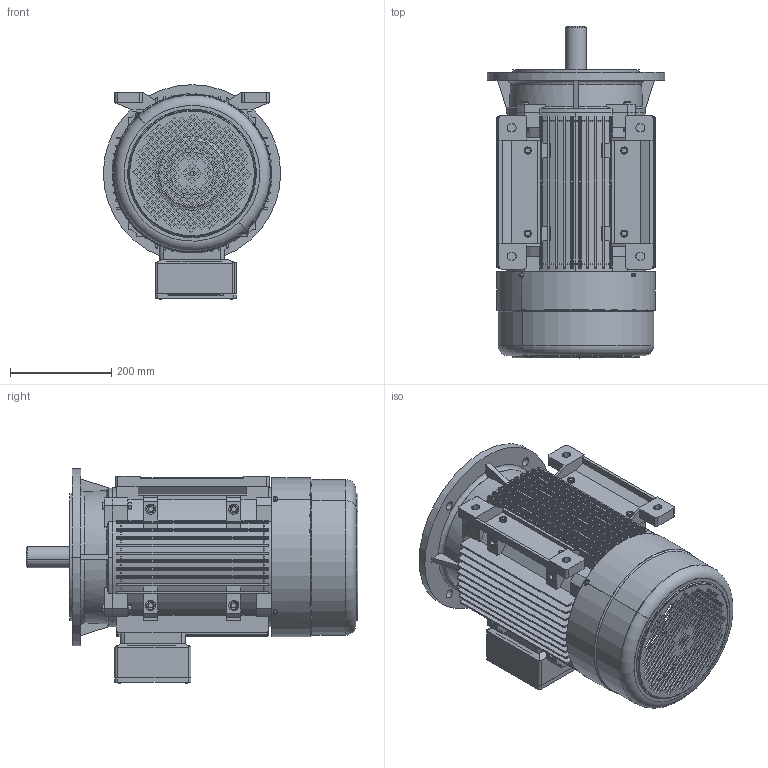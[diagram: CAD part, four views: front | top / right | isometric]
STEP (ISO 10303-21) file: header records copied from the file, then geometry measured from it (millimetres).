
FILE_DESCRIPTION (( 'STEP AP203' ), '1' );
FILE_NAME ('160L-B35.STEP', '2023-02-21T10:19:22', ( '' ), ( '' ), 'SwSTEP 2.0', 'SolidWorks 2018', '' );
FILE_SCHEMA (( 'CONFIG_CONTROL_DESIGN' ));
Length unit declared in the file: millimetre
Products named in the file (12): 160菁褐L; 160L-B35; 160 蚐猾; 160 蹟譫; 160諉盄碟釱; 160B5裔; 160粣芛; 160 蹟邡; 160諉盄碟裔; 112-蹟隊; 160L; 160瑞欶
Assembly tree (27 placements, depth 2):
  160L-B35
    160L
    160B5裔
    160 蹟邡  x8
    160 蹟譫  x4
    160粣芛
    160 蚐猾
    160諉盄碟釱
    160諉盄碟裔
    112-蹟隊  x6
    160瑞欶
    160菁褐L  x2
Bounding box: 350 x 655 x 423.73 mm (x, y, z)
Volume: 6757407.4 mm3; surface area: 2362976.7 mm2
Topology: 27 solids, 27 shells, 2958 faces, 8313 edges, 5486 vertices
Faces by surface type: plane 2245, cylinder 552, cone 105, torus 44, sphere 12
Entity records: 89241 total; most frequent: CARTESIAN_POINT 17262, ORIENTED_EDGE 15044, DIRECTION 13401, EDGE_CURVE 7522, LINE 6131, VECTOR 6131, VERTEX_POINT 4986, AXIS2_PLACEMENT_3D 3635
